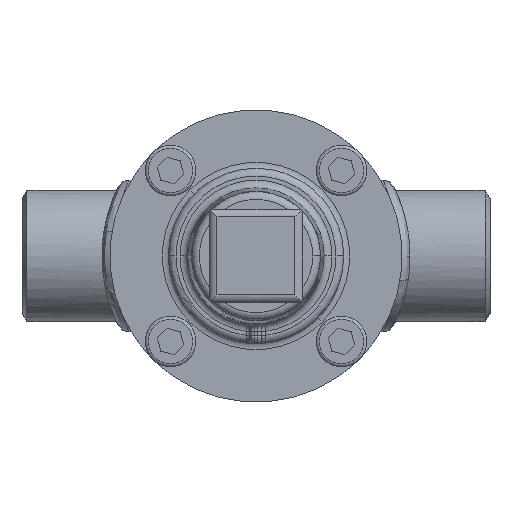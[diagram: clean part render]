
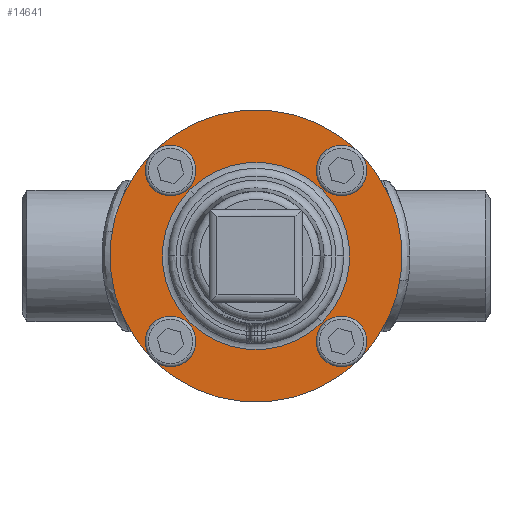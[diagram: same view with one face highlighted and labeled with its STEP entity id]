
A CAD part, front view. The second image highlights one B-rep face of the part: STEP entity #14641.
In plain terms, the highlighted planar face has unit normal (0, -1, 0) as drawn and (0, 0, -1) by its records, which use the part's own axes.
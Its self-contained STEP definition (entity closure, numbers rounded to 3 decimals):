
#16562 = ORIENTED_EDGE ( 'NONE', *, *, #16197, .T. ) ;
#16616 = CIRCLE ( 'NONE', #16617, 4.5 ) ;
#16617 = AXIS2_PLACEMENT_3D ( 'NONE', #16618, #16619, #16620 ) ;
#16618 = CARTESIAN_POINT ( 'NONE',  ( 0., -31., -14. ) ) ;
#16619 = DIRECTION ( 'NONE',  ( 0., 0., -1. ) ) ;
#16620 = DIRECTION ( 'NONE',  ( 1., 0., 0. ) ) ;
#698 = CARTESIAN_POINT ( 'NONE',  ( 4.5, 31., -14. ) ) ;
#17240 = CIRCLE ( 'NONE', #17241, 4.5 ) ;
#17241 = AXIS2_PLACEMENT_3D ( 'NONE', #17242, #17263, #17264 ) ;
#17242 = CARTESIAN_POINT ( 'NONE',  ( -31., 0., -14. ) ) ;
#17263 = DIRECTION ( 'NONE',  ( 0., 0., -1. ) ) ;
#17264 = DIRECTION ( 'NONE',  ( 0., -1., 0. ) ) ;
#1078 = VERTEX_POINT ( 'NONE', #17686 ) ;
#17552 = CIRCLE ( 'NONE', #17553, 4.5 ) ;
#17553 = AXIS2_PLACEMENT_3D ( 'NONE', #17554, #17555, #17556 ) ;
#17554 = CARTESIAN_POINT ( 'NONE',  ( 0., 31., -14. ) ) ;
#17555 = DIRECTION ( 'NONE',  ( 0., 0., -1. ) ) ;
#17556 = DIRECTION ( 'NONE',  ( -1., 0., 0. ) ) ;
#1224 = CIRCLE ( 'NONE', #1225, 4.5 ) ;
#1225 = AXIS2_PLACEMENT_3D ( 'NONE', #1226, #1227, #1228 ) ;
#1226 = CARTESIAN_POINT ( 'NONE',  ( 0., -31., -14. ) ) ;
#1227 = DIRECTION ( 'NONE',  ( 0., 0., -1. ) ) ;
#1228 = DIRECTION ( 'NONE',  ( 1., 0., 0. ) ) ;
#1302 = EDGE_CURVE ( 'NONE', #2184, #1078, #19474, .T. ) ;
#17686 = CARTESIAN_POINT ( 'NONE',  ( -4.5, 31., -14. ) ) ;
#1376 = CARTESIAN_POINT ( 'NONE',  ( -26.5, 0., -14. ) ) ;
#17981 = CARTESIAN_POINT ( 'NONE',  ( 4.5, -31., -14. ) ) ;
#1667 = EDGE_CURVE ( 'NONE', #13095, #13314, #19920, .T. ) ;
#1744 = CARTESIAN_POINT ( 'NONE',  ( -4.5, -31., -14. ) ) ;
#2035 = ORIENTED_EDGE ( 'NONE', *, *, #1667, .F. ) ;
#2184 = VERTEX_POINT ( 'NONE', #698 ) ;
#2555 = ORIENTED_EDGE ( 'NONE', *, *, #13533, .F. ) ;
#2837 = VERTEX_POINT ( 'NONE', #1744 ) ;
#19474 = CIRCLE ( 'NONE', #19475, 4.5 ) ;
#19475 = AXIS2_PLACEMENT_3D ( 'NONE', #19476, #19477, #19478 ) ;
#19476 = CARTESIAN_POINT ( 'NONE',  ( 0., 31., -14. ) ) ;
#19477 = DIRECTION ( 'NONE',  ( 0., 0., -1. ) ) ;
#19478 = DIRECTION ( 'NONE',  ( -1., 0., 0. ) ) ;
#3209 = CARTESIAN_POINT ( 'NONE',  ( 26.5, 0., -14. ) ) ;
#19613 = CARTESIAN_POINT ( 'NONE',  ( -35.5, 0., -14. ) ) ;
#3415 = VERTEX_POINT ( 'NONE', #3209 ) ;
#3464 = CIRCLE ( 'NONE', #3465, 4.5 ) ;
#3465 = AXIS2_PLACEMENT_3D ( 'NONE', #3466, #3467, #3468 ) ;
#3466 = CARTESIAN_POINT ( 'NONE',  ( 31., 0., -14. ) ) ;
#3467 = DIRECTION ( 'NONE',  ( 0., 0., -1. ) ) ;
#3468 = DIRECTION ( 'NONE',  ( 0., 1., 0. ) ) ;
#3473 = CARTESIAN_POINT ( 'NONE',  ( -37.5, 0., -14. ) ) ;
#19909 = CIRCLE ( 'NONE', #19910, 4.5 ) ;
#19910 = AXIS2_PLACEMENT_3D ( 'NONE', #19911, #19912, #19913 ) ;
#19911 = CARTESIAN_POINT ( 'NONE',  ( -31., 0., -14. ) ) ;
#19912 = DIRECTION ( 'NONE',  ( 0., 0., -1. ) ) ;
#19913 = DIRECTION ( 'NONE',  ( 0., -1., 0. ) ) ;
#19920 = CIRCLE ( 'NONE', #19921, 37.5 ) ;
#19921 = AXIS2_PLACEMENT_3D ( 'NONE', #19922, #19941, #19942 ) ;
#19922 = CARTESIAN_POINT ( 'NONE',  ( 0., 0., -14. ) ) ;
#19941 = DIRECTION ( 'NONE',  ( 0., 0., 1. ) ) ;
#19942 = DIRECTION ( 'NONE',  ( 1., 0., 0. ) ) ;
#3601 = CARTESIAN_POINT ( 'NONE',  ( 24., 0., -14. ) ) ;
#3602 = CARTESIAN_POINT ( 'NONE',  ( 37.5, 0., -14. ) ) ;
#3634 = EDGE_CURVE ( 'NONE', #4523, #3415, #3464, .T. ) ;
#4361 = CIRCLE ( 'NONE', #4362, 4.5 ) ;
#4362 = AXIS2_PLACEMENT_3D ( 'NONE', #4363, #4364, #4365 ) ;
#4363 = CARTESIAN_POINT ( 'NONE',  ( 31., 0., -14. ) ) ;
#4364 = DIRECTION ( 'NONE',  ( 0., 0., -1. ) ) ;
#4365 = DIRECTION ( 'NONE',  ( 0., 1., 0. ) ) ;
#4367 = CARTESIAN_POINT ( 'NONE',  ( -24., 0., -14. ) ) ;
#4368 = CIRCLE ( 'NONE', #4369, 37.5 ) ;
#4369 = AXIS2_PLACEMENT_3D ( 'NONE', #4370, #4371, #4372 ) ;
#4370 = CARTESIAN_POINT ( 'NONE',  ( 0., 0., -14. ) ) ;
#4371 = DIRECTION ( 'NONE',  ( 0., 0., 1. ) ) ;
#4372 = DIRECTION ( 'NONE',  ( 1., 0., 0. ) ) ;
#4523 = VERTEX_POINT ( 'NONE', #4666 ) ;
#4534 = CIRCLE ( 'NONE', #4535, 24. ) ;
#4535 = AXIS2_PLACEMENT_3D ( 'NONE', #4536, #4537, #4538 ) ;
#4536 = CARTESIAN_POINT ( 'NONE',  ( 0., 0., -14. ) ) ;
#4537 = DIRECTION ( 'NONE',  ( 0., 0., 1. ) ) ;
#4538 = DIRECTION ( 'NONE',  ( 1., 0., 0. ) ) ;
#4666 = CARTESIAN_POINT ( 'NONE',  ( 35.5, 0., -14. ) ) ;
#5421 = FACE_BOUND ( 'NONE', #14399, .T. ) ;
#5422 = FACE_BOUND ( 'NONE', #12760, .T. ) ;
#5423 = FACE_BOUND ( 'NONE', #11102, .T. ) ;
#5424 = FACE_BOUND ( 'NONE', #9455, .T. ) ;
#5425 = FACE_BOUND ( 'NONE', #7814, .T. ) ;
#5426 = FACE_OUTER_BOUND ( 'NONE', #15443, .T. ) ;
#5443 = PLANE ( 'NONE',  #5444 ) ;
#5444 = AXIS2_PLACEMENT_3D ( 'NONE', #5445, #5446, #5447 ) ;
#5445 = CARTESIAN_POINT ( 'NONE',  ( 0., 0., -14. ) ) ;
#5446 = DIRECTION ( 'NONE',  ( 0., 0., 1. ) ) ;
#5447 = DIRECTION ( 'NONE',  ( 1., 0., 0. ) ) ;
#7814 = EDGE_LOOP ( 'NONE', ( #16562, #15678 ) ) ;
#7836 = EDGE_CURVE ( 'NONE', #8888, #2837, #16616, .T. ) ;
#8055 = ORIENTED_EDGE ( 'NONE', *, *, #1302, .F. ) ;
#8576 = EDGE_CURVE ( 'NONE', #1078, #2184, #17552, .T. ) ;
#8888 = VERTEX_POINT ( 'NONE', #17981 ) ;
#8945 = ORIENTED_EDGE ( 'NONE', *, *, #8576, .F. ) ;
#9455 = EDGE_LOOP ( 'NONE', ( #8945, #8055 ) ) ;
#9697 = ORIENTED_EDGE ( 'NONE', *, *, #11120, .F. ) ;
#10208 = EDGE_CURVE ( 'NONE', #10892, #12002, #17240, .T. ) ;
#10580 = ORIENTED_EDGE ( 'NONE', *, *, #10208, .F. ) ;
#10892 = VERTEX_POINT ( 'NONE', #19613 ) ;
#11102 = EDGE_LOOP ( 'NONE', ( #10580, #9697 ) ) ;
#11120 = EDGE_CURVE ( 'NONE', #12002, #10892, #19909, .T. ) ;
#11340 = ORIENTED_EDGE ( 'NONE', *, *, #7836, .F. ) ;
#11856 = EDGE_CURVE ( 'NONE', #2837, #8888, #1224, .T. ) ;
#12002 = VERTEX_POINT ( 'NONE', #1376 ) ;
#12191 = ORIENTED_EDGE ( 'NONE', *, *, #11856, .F. ) ;
#12760 = EDGE_LOOP ( 'NONE', ( #12191, #11340 ) ) ;
#13003 = ORIENTED_EDGE ( 'NONE', *, *, #3634, .F. ) ;
#13095 = VERTEX_POINT ( 'NONE', #3473 ) ;
#13313 = VERTEX_POINT ( 'NONE', #3601 ) ;
#13314 = VERTEX_POINT ( 'NONE', #3602 ) ;
#13514 = EDGE_CURVE ( 'NONE', #3415, #4523, #4361, .T. ) ;
#13532 = VERTEX_POINT ( 'NONE', #4367 ) ;
#13533 = EDGE_CURVE ( 'NONE', #13314, #13095, #4368, .T. ) ;
#13759 = EDGE_CURVE ( 'NONE', #13532, #13313, #4534, .T. ) ;
#13885 = ORIENTED_EDGE ( 'NONE', *, *, #13514, .F. ) ;
#14399 = EDGE_LOOP ( 'NONE', ( #13885, #13003 ) ) ;
#14641 = ADVANCED_FACE ( 'NONE', ( #5421, #5422, #5423, #5424, #5425, #5426 ), #5443, .F. ) ;
#15443 = EDGE_LOOP ( 'NONE', ( #2555, #2035 ) ) ;
#15668 = CIRCLE ( 'NONE', #15669, 24. ) ;
#15669 = AXIS2_PLACEMENT_3D ( 'NONE', #15670, #15671, #15672 ) ;
#15670 = CARTESIAN_POINT ( 'NONE',  ( 0., 0., -14. ) ) ;
#15671 = DIRECTION ( 'NONE',  ( 0., 0., 1. ) ) ;
#15672 = DIRECTION ( 'NONE',  ( 1., 0., 0. ) ) ;
#15678 = ORIENTED_EDGE ( 'NONE', *, *, #13759, .T. ) ;
#16197 = EDGE_CURVE ( 'NONE', #13313, #13532, #15668, .T. ) ;
